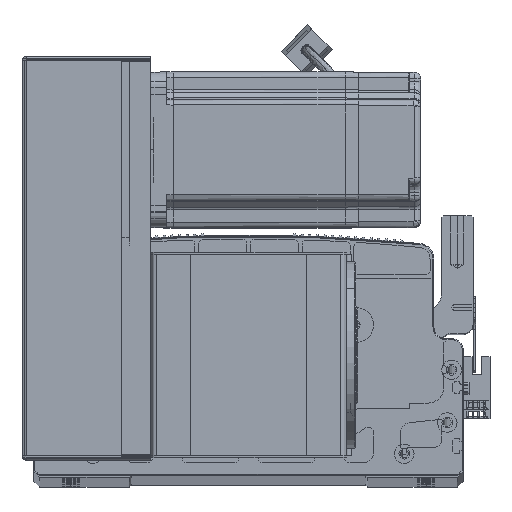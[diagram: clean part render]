
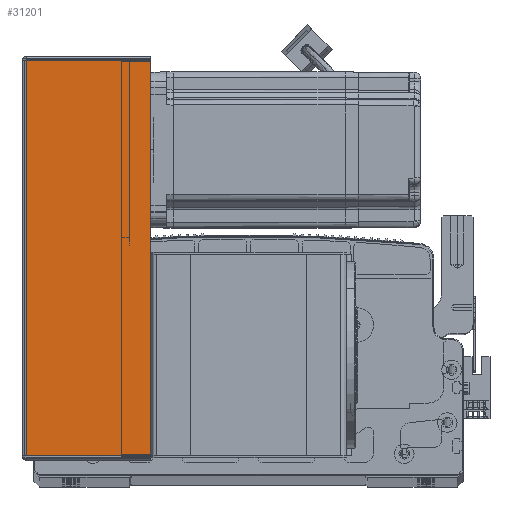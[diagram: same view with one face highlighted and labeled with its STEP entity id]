
A CAD part, top view. The second image highlights one B-rep face of the part: STEP entity #31201.
In plain terms, the highlighted planar face has unit normal (0, 0, 1) as drawn and (0, 1, 0) by its records, which use the part's own axes.
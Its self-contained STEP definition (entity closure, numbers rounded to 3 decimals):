
#3798 = DIRECTION ( 'NONE',  ( 1., 0., 0. ) ) ;
#5549 = DIRECTION ( 'NONE',  ( 0., 0., -1. ) ) ;
#8394 = CARTESIAN_POINT ( 'NONE',  ( 0., 107.5, -0.707 ) ) ;
#9762 = LINE ( 'NONE', #88508, #87815 ) ;
#9920 = LINE ( 'NONE', #8394, #34739 ) ;
#10531 = LINE ( 'NONE', #58021, #38864 ) ;
#12986 = DIRECTION ( 'NONE',  ( 0., 0., -1. ) ) ;
#18304 = PLANE ( 'NONE',  #25650 ) ;
#19582 = ORIENTED_EDGE ( 'NONE', *, *, #51087, .T. ) ;
#23152 = EDGE_LOOP ( 'NONE', ( #72458, #81692, #19582, #37854 ) ) ;
#24322 = CARTESIAN_POINT ( 'NONE',  ( 0.737, 107.5, -0.707 ) ) ;
#25650 = AXIS2_PLACEMENT_3D ( 'NONE', #57003, #34124, #49041 ) ;
#29820 = CARTESIAN_POINT ( 'NONE',  ( 0.737, 107.5, -203.293 ) ) ;
#31201 = ADVANCED_FACE ( 'NONE', ( #71790 ), #18304, .F. ) ;
#34124 = DIRECTION ( 'NONE',  ( 0., -1., 0. ) ) ;
#34739 = VECTOR ( 'NONE', #75852, 1000. ) ;
#37412 = CARTESIAN_POINT ( 'NONE',  ( 64.5, 107.5, -0.707 ) ) ;
#37854 = ORIENTED_EDGE ( 'NONE', *, *, #59056, .F. ) ;
#38864 = VECTOR ( 'NONE', #12986, 1000. ) ;
#41440 = CARTESIAN_POINT ( 'NONE',  ( 0., 107.5, -203.293 ) ) ;
#48449 = EDGE_CURVE ( 'NONE', #58962, #51148, #9762, .T. ) ;
#49041 = DIRECTION ( 'NONE',  ( 1., 0., 0. ) ) ;
#51087 = EDGE_CURVE ( 'NONE', #81546, #64136, #10531, .T. ) ;
#51148 = VERTEX_POINT ( 'NONE', #29820 ) ;
#57003 = CARTESIAN_POINT ( 'NONE',  ( 0., 107.5, 0. ) ) ;
#58021 = CARTESIAN_POINT ( 'NONE',  ( 64.5, 107.5, -204. ) ) ;
#58962 = VERTEX_POINT ( 'NONE', #24322 ) ;
#59056 = EDGE_CURVE ( 'NONE', #51148, #64136, #86888, .T. ) ;
#63010 = CARTESIAN_POINT ( 'NONE',  ( 64.5, 107.5, -203.293 ) ) ;
#64136 = VERTEX_POINT ( 'NONE', #63010 ) ;
#71790 = FACE_OUTER_BOUND ( 'NONE', #23152, .T. ) ;
#72458 = ORIENTED_EDGE ( 'NONE', *, *, #48449, .F. ) ;
#75852 = DIRECTION ( 'NONE',  ( 1., 0., 0. ) ) ;
#81546 = VERTEX_POINT ( 'NONE', #37412 ) ;
#81692 = ORIENTED_EDGE ( 'NONE', *, *, #91718, .T. ) ;
#86888 = LINE ( 'NONE', #41440, #92778 ) ;
#87815 = VECTOR ( 'NONE', #5549, 1000. ) ;
#88508 = CARTESIAN_POINT ( 'NONE',  ( 0.737, 107.5, 0. ) ) ;
#91718 = EDGE_CURVE ( 'NONE', #58962, #81546, #9920, .T. ) ;
#92778 = VECTOR ( 'NONE', #3798, 1000. ) ;
